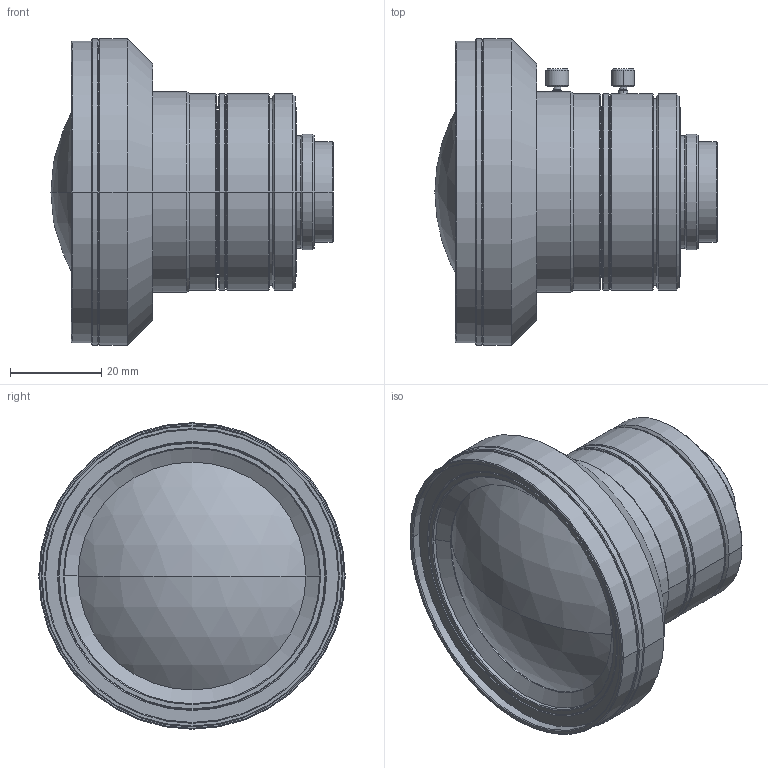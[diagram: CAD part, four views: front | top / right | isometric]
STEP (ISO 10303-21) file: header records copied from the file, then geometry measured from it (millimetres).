
FILE_DESCRIPTION (( 'STEP AP214' ), '1' );
FILE_NAME ('VS-HVA0828_Drawing_M2092A_A00100.STEP', '2024-07-17T03:54:41', ( '' ), ( '' ), 'SwSTEP 2.0', 'SolidWorks 2024', '' );
FILE_SCHEMA (( 'AUTOMOTIVE_DESIGN' ));
Length unit declared in the file: millimetre
Products named in the file (1): VS-HVA0828_Drawing_M2092A_A00100
Bounding box: 61.88 x 67.2 x 67.2 mm (x, y, z)
Volume: 105171.8 mm3; surface area: 17665.3 mm2
Topology: 1 solids, 1 shells, 142 faces, 286 edges, 166 vertices
Faces by surface type: cone 70, cylinder 46, plane 22, sphere 4
Entity records: 3757 total; most frequent: DIRECTION 728, CARTESIAN_POINT 661, ORIENTED_EDGE 572, AXIS2_PLACEMENT_3D 305, EDGE_CURVE 286, VERTEX_POINT 166, CIRCLE 162, EDGE_LOOP 162
